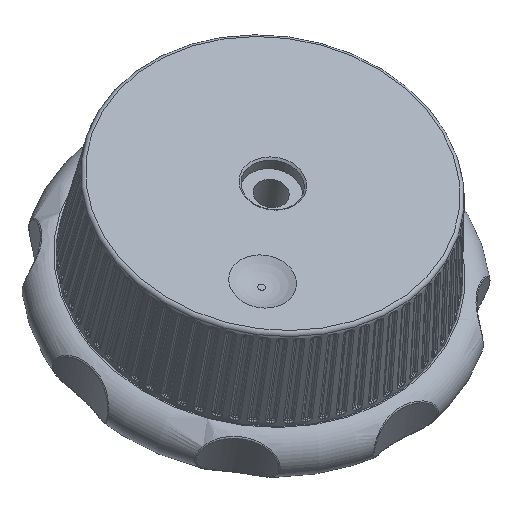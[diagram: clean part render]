
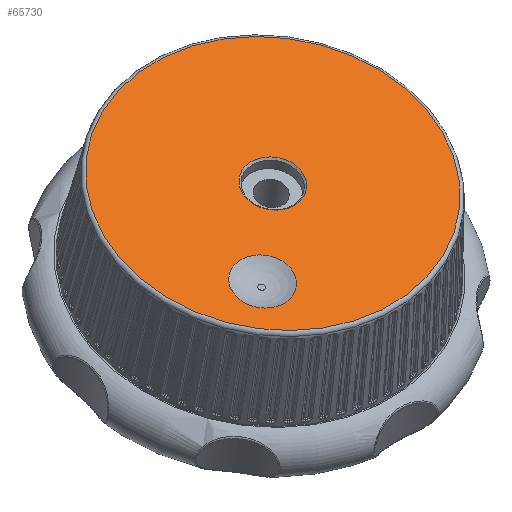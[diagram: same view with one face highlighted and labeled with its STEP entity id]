
A CAD part, top view. The second image highlights one B-rep face of the part: STEP entity #65730.
In plain terms, the highlighted planar face has unit normal (0.103, 0.624, 0.775) as drawn and (0, 1, 0) by its records, which use the part's own axes.
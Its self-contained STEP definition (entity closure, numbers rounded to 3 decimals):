
#758 = CARTESIAN_POINT ( 'NONE',  ( 0., 30., 0. ) ) ;
#1307 = CARTESIAN_POINT ( 'NONE',  ( 0., 30., 28. ) ) ;
#5167 = EDGE_LOOP ( 'NONE', ( #45447 ) ) ;
#9309 = EDGE_CURVE ( 'NONE', #66275, #66275, #27177, .T. ) ;
#12974 = CIRCLE ( 'NONE', #45801, 7.5 ) ;
#15481 = AXIS2_PLACEMENT_3D ( 'NONE', #758, #23191, #56993 ) ;
#15651 = CARTESIAN_POINT ( 'NONE',  ( 0., 30., 0. ) ) ;
#15917 = CARTESIAN_POINT ( 'NONE',  ( 0., 30., 0. ) ) ;
#17025 = VERTEX_POINT ( 'NONE', #38362 ) ;
#17272 = CIRCLE ( 'NONE', #64206, 7.5 ) ;
#17593 = EDGE_CURVE ( 'NONE', #17025, #17025, #12974, .T. ) ;
#20692 = EDGE_LOOP ( 'NONE', ( #36860 ) ) ;
#21173 = FACE_BOUND ( 'NONE', #5167, .T. ) ;
#21888 = DIRECTION ( 'NONE',  ( 0., 0., 1. ) ) ;
#23191 = DIRECTION ( 'NONE',  ( 0., 1., 0. ) ) ;
#23283 = VERTEX_POINT ( 'NONE', #39461 ) ;
#27177 = CIRCLE ( 'NONE', #15481, 41.459 ) ;
#36860 = ORIENTED_EDGE ( 'NONE', *, *, #17593, .F. ) ;
#37263 = AXIS2_PLACEMENT_3D ( 'NONE', #15651, #61223, #21888 ) ;
#38362 = CARTESIAN_POINT ( 'NONE',  ( 0., 30., 35.5 ) ) ;
#38721 = DIRECTION ( 'NONE',  ( 0., 0., 1. ) ) ;
#39461 = CARTESIAN_POINT ( 'NONE',  ( 0., 30., 7.5 ) ) ;
#41691 = DIRECTION ( 'NONE',  ( 0., 1., 0. ) ) ;
#43592 = PLANE ( 'NONE',  #37263 ) ;
#45447 = ORIENTED_EDGE ( 'NONE', *, *, #65971, .T. ) ;
#45801 = AXIS2_PLACEMENT_3D ( 'NONE', #1307, #41691, #63760 ) ;
#49807 = FACE_BOUND ( 'NONE', #20692, .T. ) ;
#54652 = EDGE_LOOP ( 'NONE', ( #62698 ) ) ;
#56993 = DIRECTION ( 'NONE',  ( 0., 0., 1. ) ) ;
#61149 = CARTESIAN_POINT ( 'NONE',  ( 0., 30., 41.459 ) ) ;
#61223 = DIRECTION ( 'NONE',  ( 0., 1., 0. ) ) ;
#62698 = ORIENTED_EDGE ( 'NONE', *, *, #9309, .T. ) ;
#63760 = DIRECTION ( 'NONE',  ( 0., 0., 1. ) ) ;
#64206 = AXIS2_PLACEMENT_3D ( 'NONE', #15917, #72519, #38721 ) ;
#65730 = ADVANCED_FACE ( 'NONE', ( #21173, #49807, #67092 ), #43592, .T. ) ;
#65971 = EDGE_CURVE ( 'NONE', #23283, #23283, #17272, .T. ) ;
#66275 = VERTEX_POINT ( 'NONE', #61149 ) ;
#67092 = FACE_OUTER_BOUND ( 'NONE', #54652, .T. ) ;
#72519 = DIRECTION ( 'NONE',  ( 0., -1., 0. ) ) ;
